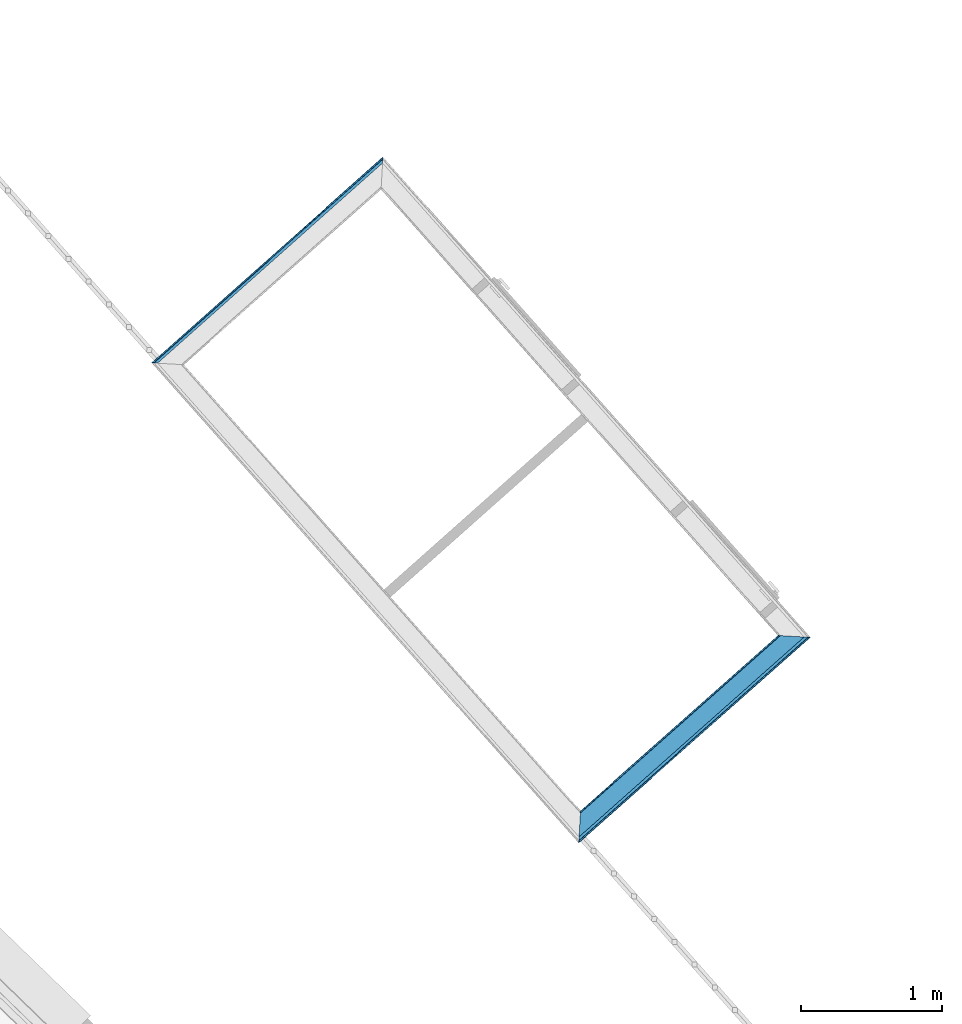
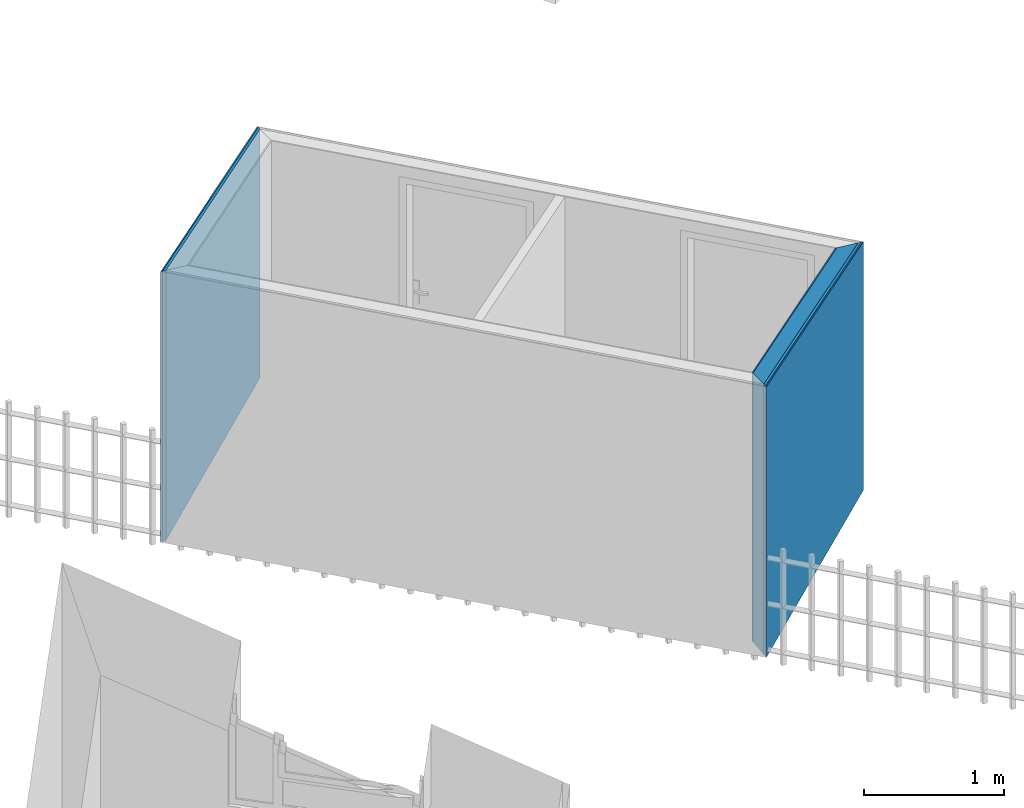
# One storey, part 122 of 195: 6 building element parts, 2 elements without a shape of their own.
"""IFC2X3 building model written with IfcOpenShell, lengths in metres."""

from ifc_helpers import new_model, entity, si_unit, converted_unit, derived_unit, money_unit, direction, frame, origin_with_axes, place, context, subcontext, project, spatial, polyline, outline, extrude, boolean, faceted_brep, material, type_object, element, aggregate, save


model = new_model("IFC2X3")

# Units and contexts
model_context = context("Model", 3, precision=1e-05, world=origin_with_axes(), true_north=direction((0.0, 1.0)))
body_context = subcontext(model_context, "Body", "Model", "MODEL_VIEW")
ifc_project = project(units=[si_unit("LENGTHUNIT", "METRE"), si_unit("AREAUNIT", "SQUARE_METRE"), si_unit("VOLUMEUNIT", "CUBIC_METRE"), converted_unit("PLANEANGLEUNIT", "DEGREE", entity("IfcPlaneAngleMeasure", 0.0174532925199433), si_unit("PLANEANGLEUNIT", "RADIAN"), dimensions=[0, 0, 0, 0, 0, 0, 0]), money_unit("CHF"), converted_unit("TIMEUNIT", "Year", entity("IfcTimeMeasure", 31557600.0), si_unit("TIMEUNIT", "SECOND"), dimensions=[0, 0, 1, 0, 0, 0, 0]), si_unit("MASSUNIT", "GRAM", prefix="KILO"), si_unit("THERMODYNAMICTEMPERATUREUNIT", "DEGREE_CELSIUS"), si_unit("LUMINOUSINTENSITYUNIT", "LUMEN"), si_unit("ENERGYUNIT", "JOULE", prefix="MEGA"), derived_unit("THERMALCONDUCTANCEUNIT", [(si_unit("POWERUNIT", "WATT"), 1), (si_unit("LENGTHUNIT", "METRE"), -1), (si_unit("THERMODYNAMICTEMPERATUREUNIT", "KELVIN"), -1)]), derived_unit("SPECIFICHEATCAPACITYUNIT", [(si_unit("ENERGYUNIT", "JOULE"), 1), (si_unit("MASSUNIT", "GRAM", prefix="KILO"), -1), (si_unit("THERMODYNAMICTEMPERATUREUNIT", "KELVIN"), -1)]), derived_unit("MASSDENSITYUNIT", [(si_unit("MASSUNIT", "GRAM", prefix="KILO"), 1), (si_unit("VOLUMEUNIT", "CUBIC_METRE"), -1)])], contexts=[model_context])

# Site, building, storey
site_placement = place(None, origin_with_axes())
site = spatial("IfcSite", under=ifc_project, at=site_placement, Name="Site", CompositionType="ELEMENT")
building_placement = place(site_placement, origin_with_axes())
building = spatial("IfcBuilding", under=site, at=building_placement, Name="Bâtiment", CompositionType="ELEMENT")
storey_placement = place(building_placement, origin_with_axes())
storey = spatial("IfcBuildingStorey", under=building, at=storey_placement, Name="rdc", CompositionType="ELEMENT", Elevation=0.0)

# Wall, building element parts
wall_type = type_object("IfcWallType", Name="1/Ossatur bois 160   non isol 160", PredefinedType="NOTDEFINED")
wall_1_placement = place(storey_placement, frame((9534.394085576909, -1058.80375944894, 57.7), z_axis=(0.0, 0.0, 1.0), x_axis=(0.7471567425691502, 0.6646478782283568, 0.0)))
wall_1 = element("IfcWall", 1, at=wall_1_placement, inside=storey, type_object=wall_type, Name="Mur-109")
ifc_material_1 = material(Name="Lame d'air 323202302")
building_element_part_1_placement = place(wall_1_placement, origin_with_axes())
building_element_part_1 = element("IfcBuildingElementPart", 2, at=building_element_part_1_placement, material=ifc_material_1, Name="Lame d'air 323202302", context=body_context, shape_type="CSG", body=[
    boolean("DIFFERENCE", boolean("DIFFERENCE", boolean("DIFFERENCE", boolean("DIFFERENCE", extrude(outline(polyline([(0.0, -0.02999999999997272), (2.19310865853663, -0.02999999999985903), (2.19310865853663, -0.009999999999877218), (0.0, -0.009999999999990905), (0.0, -0.02999999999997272)])), origin_with_axes(), (0.0, 0.0, 1.0), 2.75), faceted_brep([(0.1499999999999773, -0.1500000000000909, 2.343319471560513), (0.1499999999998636, -0.1499999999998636, 0.0), (0.0, -0.1499999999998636, 0.0), (0.0, -0.1499999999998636, 2.75), (2.193108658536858, -0.1499999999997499, 2.75), (2.193108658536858, -0.1499999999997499, 0.0), (2.043108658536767, -0.1499999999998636, 0.0), (2.043108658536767, -0.1499999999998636, 2.177693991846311), (0.1599999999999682, -0.1600000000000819, 2.342443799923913), (0.1599999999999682, -0.1600000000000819, 0.0), (0.0, -0.1599999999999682, 0.0), (0.0, -0.1599999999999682, 2.75), (2.193108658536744, -0.1599999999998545, 2.75), (2.193108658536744, -0.1599999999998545, 0.0), (2.033108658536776, -0.1599999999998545, 0.0), (2.033108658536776, -0.1599999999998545, 2.178568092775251)], [[[0, 1, 2, 3, 4, 5, 6, 7]], [[8, 9, 1, 0]], [[1, 9, 10, 2]], [[3, 2, 10, 11]], [[3, 11, 12, 4]], [[12, 13, 5, 4]], [[14, 6, 5, 13]], [[7, 6, 14, 15]], [[0, 7, 15, 8]], [[15, 14, 13, 12, 11, 10, 9, 8]]])), faceted_brep([(0.02999999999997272, -0.02999999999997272, 2.353827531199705), (0.02999999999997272, -0.02999999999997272, 0.0), (0.0, -0.02999999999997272, 0.0), (0.0, -0.02999999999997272, 2.75), (2.19310865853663, -0.02999999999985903, 2.75), (2.19310865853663, -0.02999999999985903, 0.0), (2.163108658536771, -0.02999999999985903, 0.0), (2.163108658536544, -0.02999999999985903, 2.167204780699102), (0.1499999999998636, -0.1499999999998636, 2.343319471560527), (0.1499999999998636, -0.1499999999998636, 0.0), (0.0, -0.1499999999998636, 0.0), (0.0, -0.1499999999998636, 2.75), (2.193108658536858, -0.1499999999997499, 2.75), (2.193108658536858, -0.1499999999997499, 0.0), (2.043108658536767, -0.1499999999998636, 0.0), (2.043108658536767, -0.1499999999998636, 2.177693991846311)], [[[0, 1, 2, 3, 4, 5, 6, 7]], [[8, 9, 1, 0]], [[1, 9, 10, 2]], [[3, 2, 10, 11]], [[3, 11, 12, 4]], [[12, 13, 5, 4]], [[14, 6, 5, 13]], [[7, 6, 14, 15]], [[0, 7, 15, 8]], [[15, 14, 13, 12, 11, 10, 9, 8]]])), faceted_brep([(0.009999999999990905, -0.009999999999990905, 2.355578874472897), (0.009999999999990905, -0.009999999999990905, 0.0), (0.0, -0.009999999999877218, 0.0), (0.0, -0.009999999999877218, 2.75), (2.19310865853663, -0.009999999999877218, 2.75), (2.19310865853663, -0.009999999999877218, 0.0), (2.183108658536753, -0.009999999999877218, 0.0), (2.183108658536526, -0.009999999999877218, 2.16545657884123), (0.02999999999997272, -0.02999999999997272, 2.353827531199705), (0.02999999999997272, -0.02999999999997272, 0.0), (0.0, -0.02999999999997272, 0.0), (0.0, -0.02999999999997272, 2.75), (2.19310865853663, -0.02999999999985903, 2.75), (2.19310865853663, -0.02999999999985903, 0.0), (2.163108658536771, -0.02999999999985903, 0.0), (2.163108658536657, -0.02999999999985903, 2.167204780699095)], [[[0, 1, 2, 3, 4, 5, 6, 7]], [[8, 9, 1, 0]], [[1, 9, 10, 2]], [[3, 2, 10, 11]], [[3, 11, 12, 4]], [[12, 13, 5, 4]], [[14, 6, 5, 13]], [[7, 6, 14, 15]], [[0, 7, 15, 8]], [[15, 14, 13, 12, 11, 10, 9, 8]]])), faceted_brep([(2.19310865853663, 0.0, 0.0), (2.19310865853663, 0.0, 2.164582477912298), (2.19310865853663, 0.0, 2.75), (2.19310865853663, -0.009999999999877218, 2.75), (2.19310865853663, -0.009999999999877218, 0.0), (2.183108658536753, -0.009999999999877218, 0.0), (2.183108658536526, -0.009999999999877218, 2.16545657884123), (0.0, 0.0, 2.356454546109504), (0.0, 0.0, 2.75), (0.0, -0.009999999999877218, 2.75), (0.0, -0.009999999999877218, 0.0), (0.009999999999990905, -0.009999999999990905, 0.0), (0.009999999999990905, -0.009999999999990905, 2.355578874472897), (0.0, 0.0, 0.0)], [[[0, 1, 2, 3, 4]], [[1, 0, 5, 6]], [[1, 7, 8, 2]], [[8, 9, 3, 2]], [[6, 5, 4, 3, 9, 10, 11, 12]], [[5, 0, 4]], [[7, 1, 6, 12]], [[7, 13, 10, 9, 8]], [[13, 11, 10]], [[12, 11, 13, 7]]])),
])
ifc_material_2 = material(Name="Hachure solide 323202122")
building_element_part_2_placement = place(wall_1_placement, origin_with_axes())
building_element_part_2 = element("IfcBuildingElementPart", 3, at=building_element_part_2_placement, material=ifc_material_2, Name="Hachure solide 323202122", context=body_context, shape_type="CSG", body=[
    boolean("DIFFERENCE", boolean("DIFFERENCE", boolean("DIFFERENCE", boolean("DIFFERENCE", extrude(outline(polyline([(0.0, -0.009999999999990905), (2.19310865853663, -0.009999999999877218), (2.19310865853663, 0.0), (0.0, 0.0), (0.0, -0.009999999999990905)])), origin_with_axes(), (0.0, 0.0, 1.0), 2.75), faceted_brep([(0.1499999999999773, -0.1500000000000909, 2.343319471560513), (0.1499999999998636, -0.1499999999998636, 0.0), (0.0, -0.1499999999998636, 0.0), (0.0, -0.1499999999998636, 2.75), (2.193108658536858, -0.1499999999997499, 2.75), (2.193108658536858, -0.1499999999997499, 0.0), (2.043108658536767, -0.1499999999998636, 0.0), (2.043108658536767, -0.1499999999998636, 2.177693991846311), (0.1599999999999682, -0.1600000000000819, 2.342443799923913), (0.1599999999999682, -0.1600000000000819, 0.0), (0.0, -0.1599999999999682, 0.0), (0.0, -0.1599999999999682, 2.75), (2.193108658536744, -0.1599999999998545, 2.75), (2.193108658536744, -0.1599999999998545, 0.0), (2.033108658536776, -0.1599999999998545, 0.0), (2.033108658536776, -0.1599999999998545, 2.178568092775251)], [[[0, 1, 2, 3, 4, 5, 6, 7]], [[8, 9, 1, 0]], [[1, 9, 10, 2]], [[3, 2, 10, 11]], [[3, 11, 12, 4]], [[12, 13, 5, 4]], [[14, 6, 5, 13]], [[7, 6, 14, 15]], [[0, 7, 15, 8]], [[15, 14, 13, 12, 11, 10, 9, 8]]])), faceted_brep([(0.02999999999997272, -0.02999999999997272, 2.353827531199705), (0.02999999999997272, -0.02999999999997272, 0.0), (0.0, -0.02999999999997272, 0.0), (0.0, -0.02999999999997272, 2.75), (2.19310865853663, -0.02999999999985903, 2.75), (2.19310865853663, -0.02999999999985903, 0.0), (2.163108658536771, -0.02999999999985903, 0.0), (2.163108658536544, -0.02999999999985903, 2.167204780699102), (0.1499999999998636, -0.1499999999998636, 2.343319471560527), (0.1499999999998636, -0.1499999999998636, 0.0), (0.0, -0.1499999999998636, 0.0), (0.0, -0.1499999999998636, 2.75), (2.193108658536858, -0.1499999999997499, 2.75), (2.193108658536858, -0.1499999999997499, 0.0), (2.043108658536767, -0.1499999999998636, 0.0), (2.043108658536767, -0.1499999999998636, 2.177693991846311)], [[[0, 1, 2, 3, 4, 5, 6, 7]], [[8, 9, 1, 0]], [[1, 9, 10, 2]], [[3, 2, 10, 11]], [[3, 11, 12, 4]], [[12, 13, 5, 4]], [[14, 6, 5, 13]], [[7, 6, 14, 15]], [[0, 7, 15, 8]], [[15, 14, 13, 12, 11, 10, 9, 8]]])), faceted_brep([(0.009999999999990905, -0.009999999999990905, 2.355578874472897), (0.009999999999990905, -0.009999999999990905, 0.0), (0.0, -0.009999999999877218, 0.0), (0.0, -0.009999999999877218, 2.75), (2.19310865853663, -0.009999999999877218, 2.75), (2.19310865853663, -0.009999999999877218, 0.0), (2.183108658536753, -0.009999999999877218, 0.0), (2.183108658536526, -0.009999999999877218, 2.16545657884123), (0.02999999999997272, -0.02999999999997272, 2.353827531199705), (0.02999999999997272, -0.02999999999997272, 0.0), (0.0, -0.02999999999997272, 0.0), (0.0, -0.02999999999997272, 2.75), (2.19310865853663, -0.02999999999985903, 2.75), (2.19310865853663, -0.02999999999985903, 0.0), (2.163108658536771, -0.02999999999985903, 0.0), (2.163108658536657, -0.02999999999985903, 2.167204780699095)], [[[0, 1, 2, 3, 4, 5, 6, 7]], [[8, 9, 1, 0]], [[1, 9, 10, 2]], [[3, 2, 10, 11]], [[3, 11, 12, 4]], [[12, 13, 5, 4]], [[14, 6, 5, 13]], [[7, 6, 14, 15]], [[0, 7, 15, 8]], [[15, 14, 13, 12, 11, 10, 9, 8]]])), faceted_brep([(2.19310865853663, 0.0, 0.0), (2.19310865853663, 0.0, 2.164582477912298), (2.19310865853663, 0.0, 2.75), (2.19310865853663, -0.009999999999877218, 2.75), (2.19310865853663, -0.009999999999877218, 0.0), (2.183108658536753, -0.009999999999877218, 0.0), (2.183108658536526, -0.009999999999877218, 2.16545657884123), (0.0, 0.0, 2.356454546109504), (0.0, 0.0, 2.75), (0.0, -0.009999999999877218, 2.75), (0.0, -0.009999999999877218, 0.0), (0.009999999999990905, -0.009999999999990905, 0.0), (0.009999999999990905, -0.009999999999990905, 2.355578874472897), (0.0, 0.0, 0.0)], [[[0, 1, 2, 3, 4]], [[1, 0, 5, 6]], [[1, 7, 8, 2]], [[8, 9, 3, 2]], [[6, 5, 4, 3, 9, 10, 11, 12]], [[5, 0, 4]], [[7, 1, 6, 12]], [[7, 13, 10, 9, 8]], [[13, 11, 10]], [[12, 11, 13, 7]]])),
])
aggregate(wall_1, [building_element_part_1, building_element_part_2])

wall_2_placement = place(storey_placement, frame((9539.059533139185, -1060.748717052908, 57.7), z_axis=(0.0, 0.0, 1.0), x_axis=(-0.7477530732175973, -0.6639769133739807, 0.0)))
wall_2 = element("IfcWall", 4, at=wall_2_placement, inside=storey, type_object=wall_type, Name="Mur-111")
ifc_material_3 = material(Name="Lame d'air 275581439")
building_element_part_3_placement = place(wall_2_placement, origin_with_axes())
building_element_part_3 = element("IfcBuildingElementPart", 5, at=building_element_part_3_placement, material=ifc_material_3, Name="Lame d'air 275581439", context=body_context, shape_type="CSG", body=[
    boolean("DIFFERENCE", boolean("DIFFERENCE", boolean("DIFFERENCE", boolean("DIFFERENCE", extrude(outline(polyline([(0.0, -0.1500000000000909), (2.193253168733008, -0.1500000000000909), (2.193253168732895, -0.0300000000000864), (0.0, -0.0300000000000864), (0.0, -0.1500000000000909)])), origin_with_axes(), (0.0, 0.0, 1.0), 2.75), faceted_brep([(2.043244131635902, -0.1500000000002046, 0.0), (2.043244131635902, -0.1500000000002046, 2.342985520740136), (0.1501347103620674, -0.1500000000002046, 2.177359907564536), (0.1501347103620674, -0.1500000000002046, 0.0), (0.0, -0.1500000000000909, 0.0), (0.0, -0.1500000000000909, 2.75), (2.193253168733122, -0.1500000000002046, 2.75), (2.193253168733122, -0.1500000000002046, 0.0), (2.033253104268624, -0.1600000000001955, 0.0), (2.033253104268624, -0.1600000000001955, 2.34211141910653), (0.1601436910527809, -0.1599999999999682, 2.178235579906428), (0.1601436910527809, -0.1599999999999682, 0.0), (0.0, -0.1600000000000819, 0.0), (0.0, -0.1600000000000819, 2.75), (2.193253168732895, -0.1600000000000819, 2.75), (2.193253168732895, -0.1600000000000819, 0.0)], [[[0, 1, 2, 3, 4, 5, 6, 7]], [[8, 9, 1, 0]], [[2, 1, 9, 10]], [[3, 2, 10, 11]], [[3, 11, 12, 4]], [[5, 4, 12, 13]], [[5, 13, 14, 6]], [[14, 15, 7, 6]], [[8, 0, 7, 15]], [[9, 8, 15, 14, 13, 12, 11, 10]]])), faceted_brep([(2.163136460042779, -0.03000000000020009, 0.0), (2.163136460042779, -0.03000000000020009, 2.353474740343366), (0.03002694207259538, -0.03000000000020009, 2.166851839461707), (0.03002694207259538, -0.03000000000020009, 0.0), (0.0, -0.0300000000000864, 0.0), (0.0, -0.0300000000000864, 2.75), (2.193253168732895, -0.03000000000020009, 2.75), (2.193253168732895, -0.03000000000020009, 0.0), (2.043244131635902, -0.1500000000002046, 0.0), (2.043244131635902, -0.1500000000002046, 2.342985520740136), (0.1501347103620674, -0.1500000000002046, 2.177359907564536), (0.1501347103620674, -0.1500000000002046, 0.0), (0.0, -0.1500000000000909, 0.0), (0.0, -0.1500000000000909, 2.75), (2.193253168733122, -0.1500000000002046, 2.75), (2.193253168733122, -0.1500000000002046, 0.0)], [[[0, 1, 2, 3, 4, 5, 6, 7]], [[8, 9, 1, 0]], [[2, 1, 9, 10]], [[3, 2, 10, 11]], [[3, 11, 12, 4]], [[5, 4, 12, 13]], [[5, 13, 14, 6]], [[14, 15, 7, 6]], [[8, 0, 7, 15]], [[9, 8, 15, 14, 13, 12, 11, 10]]])), faceted_brep([(2.183118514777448, -0.009999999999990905, 0.0), (2.183118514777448, -0.009999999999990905, 2.355222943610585), (0.01000898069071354, -0.009999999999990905, 2.165100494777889), (0.01000898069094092, -0.01000000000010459, 0.0), (0.0, -0.01000000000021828, 0.0), (0.0, -0.01000000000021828, 2.75), (2.193253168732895, -0.009999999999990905, 2.75), (2.193253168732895, -0.009999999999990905, 0.0), (2.163136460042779, -0.03000000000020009, 0.0), (2.163136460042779, -0.03000000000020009, 2.353474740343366), (0.03002694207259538, -0.03000000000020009, 2.166851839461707), (0.03002694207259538, -0.03000000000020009, 0.0), (0.0, -0.0300000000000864, 0.0), (0.0, -0.0300000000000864, 2.75), (2.193253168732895, -0.03000000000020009, 2.75), (2.193253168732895, -0.03000000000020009, 0.0)], [[[0, 1, 2, 3, 4, 5, 6, 7]], [[8, 9, 1, 0]], [[2, 1, 9, 10]], [[3, 2, 10, 11]], [[3, 11, 12, 4]], [[5, 4, 12, 13]], [[5, 13, 14, 6]], [[14, 15, 7, 6]], [[8, 0, 7, 15]], [[9, 8, 15, 14, 13, 12, 11, 10]]])), faceted_brep([(2.193109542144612, 0.0, 0.0), (2.193109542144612, 0.0, 2.356097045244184), (0.0, 0.0, 2.164224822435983), (0.0, 0.0, 2.75), (2.193253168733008, 0.0, 2.75), (2.193253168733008, 0.0, 0.0), (2.183118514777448, -0.009999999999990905, 0.0), (2.183118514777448, -0.009999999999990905, 2.355222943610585), (0.01000898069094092, -0.01000000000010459, 2.165100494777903), (0.0, 0.0, 0.0), (0.0, -0.01000000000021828, 0.0), (0.0, -0.01000000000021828, 2.75), (2.193253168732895, -0.009999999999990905, 2.75), (2.193253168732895, -0.009999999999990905, 0.0), (0.01000898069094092, -0.01000000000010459, 0.0)], [[[0, 1, 2, 3, 4, 5]], [[6, 7, 1, 0]], [[2, 1, 7, 8]], [[2, 9, 10, 11, 3]], [[3, 11, 12, 4]], [[12, 13, 5, 4]], [[6, 0, 5, 13]], [[7, 6, 13, 12, 11, 10, 14, 8]], [[9, 2, 8, 14]], [[9, 14, 10]]])),
])
building_element_part_4_placement = place(wall_2_placement, origin_with_axes())
building_element_part_4 = element("IfcBuildingElementPart", 6, at=building_element_part_4_placement, material=ifc_material_2, Name="Hachure solide 323202122", context=body_context, shape_type="CSG", body=[
    boolean("DIFFERENCE", boolean("DIFFERENCE", boolean("DIFFERENCE", boolean("DIFFERENCE", extrude(outline(polyline([(0.0, -0.01000000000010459), (2.193253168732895, -0.009999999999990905), (2.193253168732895, 0.0), (0.0, 0.0), (0.0, -0.01000000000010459)])), origin_with_axes(), (0.0, 0.0, 1.0), 2.75), faceted_brep([(2.043244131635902, -0.1500000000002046, 0.0), (2.043244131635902, -0.1500000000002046, 2.342985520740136), (0.1501347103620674, -0.1500000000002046, 2.177359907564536), (0.1501347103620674, -0.1500000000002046, 0.0), (0.0, -0.1500000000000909, 0.0), (0.0, -0.1500000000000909, 2.75), (2.193253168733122, -0.1500000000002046, 2.75), (2.193253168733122, -0.1500000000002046, 0.0), (2.033253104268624, -0.1600000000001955, 0.0), (2.033253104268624, -0.1600000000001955, 2.34211141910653), (0.1601436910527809, -0.1599999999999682, 2.178235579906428), (0.1601436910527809, -0.1599999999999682, 0.0), (0.0, -0.1600000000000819, 0.0), (0.0, -0.1600000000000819, 2.75), (2.193253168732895, -0.1600000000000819, 2.75), (2.193253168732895, -0.1600000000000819, 0.0)], [[[0, 1, 2, 3, 4, 5, 6, 7]], [[8, 9, 1, 0]], [[2, 1, 9, 10]], [[3, 2, 10, 11]], [[3, 11, 12, 4]], [[5, 4, 12, 13]], [[5, 13, 14, 6]], [[14, 15, 7, 6]], [[8, 0, 7, 15]], [[9, 8, 15, 14, 13, 12, 11, 10]]])), faceted_brep([(2.163136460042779, -0.03000000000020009, 0.0), (2.163136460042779, -0.03000000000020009, 2.353474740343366), (0.03002694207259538, -0.03000000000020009, 2.166851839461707), (0.03002694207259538, -0.03000000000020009, 0.0), (0.0, -0.0300000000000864, 0.0), (0.0, -0.0300000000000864, 2.75), (2.193253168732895, -0.03000000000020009, 2.75), (2.193253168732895, -0.03000000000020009, 0.0), (2.043244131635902, -0.1500000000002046, 0.0), (2.043244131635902, -0.1500000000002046, 2.342985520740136), (0.1501347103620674, -0.1500000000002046, 2.177359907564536), (0.1501347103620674, -0.1500000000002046, 0.0), (0.0, -0.1500000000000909, 0.0), (0.0, -0.1500000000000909, 2.75), (2.193253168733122, -0.1500000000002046, 2.75), (2.193253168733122, -0.1500000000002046, 0.0)], [[[0, 1, 2, 3, 4, 5, 6, 7]], [[8, 9, 1, 0]], [[2, 1, 9, 10]], [[3, 2, 10, 11]], [[3, 11, 12, 4]], [[5, 4, 12, 13]], [[5, 13, 14, 6]], [[14, 15, 7, 6]], [[8, 0, 7, 15]], [[9, 8, 15, 14, 13, 12, 11, 10]]])), faceted_brep([(2.183118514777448, -0.009999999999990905, 0.0), (2.183118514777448, -0.009999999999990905, 2.355222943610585), (0.01000898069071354, -0.009999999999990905, 2.165100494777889), (0.01000898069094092, -0.01000000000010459, 0.0), (0.0, -0.01000000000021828, 0.0), (0.0, -0.01000000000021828, 2.75), (2.193253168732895, -0.009999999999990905, 2.75), (2.193253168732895, -0.009999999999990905, 0.0), (2.163136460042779, -0.03000000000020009, 0.0), (2.163136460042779, -0.03000000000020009, 2.353474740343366), (0.03002694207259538, -0.03000000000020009, 2.166851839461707), (0.03002694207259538, -0.03000000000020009, 0.0), (0.0, -0.0300000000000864, 0.0), (0.0, -0.0300000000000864, 2.75), (2.193253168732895, -0.03000000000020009, 2.75), (2.193253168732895, -0.03000000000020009, 0.0)], [[[0, 1, 2, 3, 4, 5, 6, 7]], [[8, 9, 1, 0]], [[2, 1, 9, 10]], [[3, 2, 10, 11]], [[3, 11, 12, 4]], [[5, 4, 12, 13]], [[5, 13, 14, 6]], [[14, 15, 7, 6]], [[8, 0, 7, 15]], [[9, 8, 15, 14, 13, 12, 11, 10]]])), faceted_brep([(2.193109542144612, 0.0, 0.0), (2.193109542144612, 0.0, 2.356097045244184), (0.0, 0.0, 2.164224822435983), (0.0, 0.0, 2.75), (2.193253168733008, 0.0, 2.75), (2.193253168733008, 0.0, 0.0), (2.183118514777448, -0.009999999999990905, 0.0), (2.183118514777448, -0.009999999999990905, 2.355222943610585), (0.01000898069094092, -0.01000000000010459, 2.165100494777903), (0.0, 0.0, 0.0), (0.0, -0.01000000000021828, 0.0), (0.0, -0.01000000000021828, 2.75), (2.193253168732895, -0.009999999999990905, 2.75), (2.193253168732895, -0.009999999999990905, 0.0), (0.01000898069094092, -0.01000000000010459, 0.0)], [[[0, 1, 2, 3, 4, 5]], [[6, 7, 1, 0]], [[2, 1, 7, 8]], [[2, 9, 10, 11, 3]], [[3, 11, 12, 4]], [[12, 13, 5, 4]], [[6, 0, 5, 13]], [[7, 6, 13, 12, 11, 10, 14, 8]], [[9, 2, 8, 14]], [[9, 14, 10]]])),
])
ifc_material_4 = material(Name="Sans Trame 296962763")
building_element_part_5_placement = place(wall_2_placement, origin_with_axes())
building_element_part_5 = element("IfcBuildingElementPart", 7, at=building_element_part_5_placement, material=ifc_material_4, Name="Sans Trame 296962763", context=body_context, shape_type="CSG", body=[
    boolean("DIFFERENCE", boolean("DIFFERENCE", boolean("DIFFERENCE", boolean("DIFFERENCE", extrude(outline(polyline([(0.0, -0.1600000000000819), (2.193253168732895, -0.1600000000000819), (2.193253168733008, -0.1500000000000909), (0.0, -0.1500000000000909), (0.0, -0.1600000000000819)])), origin_with_axes(), (0.0, 0.0, 1.0), 2.75), faceted_brep([(2.043244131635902, -0.1500000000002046, 0.0), (2.043244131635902, -0.1500000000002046, 2.342985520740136), (0.1501347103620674, -0.1500000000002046, 2.177359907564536), (0.1501347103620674, -0.1500000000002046, 0.0), (0.0, -0.1500000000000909, 0.0), (0.0, -0.1500000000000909, 2.75), (2.193253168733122, -0.1500000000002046, 2.75), (2.193253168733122, -0.1500000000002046, 0.0), (2.033253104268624, -0.1600000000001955, 0.0), (2.033253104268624, -0.1600000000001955, 2.34211141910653), (0.1601436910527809, -0.1599999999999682, 2.178235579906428), (0.1601436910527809, -0.1599999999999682, 0.0), (0.0, -0.1600000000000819, 0.0), (0.0, -0.1600000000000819, 2.75), (2.193253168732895, -0.1600000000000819, 2.75), (2.193253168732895, -0.1600000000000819, 0.0)], [[[0, 1, 2, 3, 4, 5, 6, 7]], [[8, 9, 1, 0]], [[2, 1, 9, 10]], [[3, 2, 10, 11]], [[3, 11, 12, 4]], [[5, 4, 12, 13]], [[5, 13, 14, 6]], [[14, 15, 7, 6]], [[8, 0, 7, 15]], [[9, 8, 15, 14, 13, 12, 11, 10]]])), faceted_brep([(2.163136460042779, -0.03000000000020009, 0.0), (2.163136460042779, -0.03000000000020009, 2.353474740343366), (0.03002694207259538, -0.03000000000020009, 2.166851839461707), (0.03002694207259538, -0.03000000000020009, 0.0), (0.0, -0.0300000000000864, 0.0), (0.0, -0.0300000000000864, 2.75), (2.193253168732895, -0.03000000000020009, 2.75), (2.193253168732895, -0.03000000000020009, 0.0), (2.043244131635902, -0.1500000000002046, 0.0), (2.043244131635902, -0.1500000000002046, 2.342985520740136), (0.1501347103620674, -0.1500000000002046, 2.177359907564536), (0.1501347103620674, -0.1500000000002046, 0.0), (0.0, -0.1500000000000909, 0.0), (0.0, -0.1500000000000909, 2.75), (2.193253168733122, -0.1500000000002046, 2.75), (2.193253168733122, -0.1500000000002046, 0.0)], [[[0, 1, 2, 3, 4, 5, 6, 7]], [[8, 9, 1, 0]], [[2, 1, 9, 10]], [[3, 2, 10, 11]], [[3, 11, 12, 4]], [[5, 4, 12, 13]], [[5, 13, 14, 6]], [[14, 15, 7, 6]], [[8, 0, 7, 15]], [[9, 8, 15, 14, 13, 12, 11, 10]]])), faceted_brep([(2.183118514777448, -0.009999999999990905, 0.0), (2.183118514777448, -0.009999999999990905, 2.355222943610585), (0.01000898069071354, -0.009999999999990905, 2.165100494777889), (0.01000898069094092, -0.01000000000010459, 0.0), (0.0, -0.01000000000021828, 0.0), (0.0, -0.01000000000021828, 2.75), (2.193253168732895, -0.009999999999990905, 2.75), (2.193253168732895, -0.009999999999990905, 0.0), (2.163136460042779, -0.03000000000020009, 0.0), (2.163136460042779, -0.03000000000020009, 2.353474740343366), (0.03002694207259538, -0.03000000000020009, 2.166851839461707), (0.03002694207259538, -0.03000000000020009, 0.0), (0.0, -0.0300000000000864, 0.0), (0.0, -0.0300000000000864, 2.75), (2.193253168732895, -0.03000000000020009, 2.75), (2.193253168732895, -0.03000000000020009, 0.0)], [[[0, 1, 2, 3, 4, 5, 6, 7]], [[8, 9, 1, 0]], [[2, 1, 9, 10]], [[3, 2, 10, 11]], [[3, 11, 12, 4]], [[5, 4, 12, 13]], [[5, 13, 14, 6]], [[14, 15, 7, 6]], [[8, 0, 7, 15]], [[9, 8, 15, 14, 13, 12, 11, 10]]])), faceted_brep([(2.193109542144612, 0.0, 0.0), (2.193109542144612, 0.0, 2.356097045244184), (0.0, 0.0, 2.164224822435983), (0.0, 0.0, 2.75), (2.193253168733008, 0.0, 2.75), (2.193253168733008, 0.0, 0.0), (2.183118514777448, -0.009999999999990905, 0.0), (2.183118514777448, -0.009999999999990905, 2.355222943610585), (0.01000898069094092, -0.01000000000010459, 2.165100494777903), (0.0, 0.0, 0.0), (0.0, -0.01000000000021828, 0.0), (0.0, -0.01000000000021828, 2.75), (2.193253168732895, -0.009999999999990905, 2.75), (2.193253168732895, -0.009999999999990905, 0.0), (0.01000898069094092, -0.01000000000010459, 0.0)], [[[0, 1, 2, 3, 4, 5]], [[6, 7, 1, 0]], [[2, 1, 7, 8]], [[2, 9, 10, 11, 3]], [[3, 11, 12, 4]], [[12, 13, 5, 4]], [[6, 0, 5, 13]], [[7, 6, 13, 12, 11, 10, 14, 8]], [[9, 2, 8, 14]], [[9, 14, 10]]])),
])
building_element_part_6_placement = place(wall_2_placement, origin_with_axes())
building_element_part_6 = element("IfcBuildingElementPart", 8, at=building_element_part_6_placement, material=ifc_material_1, Name="Lame d'air 323202302", context=body_context, shape_type="CSG", body=[
    boolean("DIFFERENCE", boolean("DIFFERENCE", boolean("DIFFERENCE", boolean("DIFFERENCE", extrude(outline(polyline([(0.0, -0.0300000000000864), (2.193253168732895, -0.0300000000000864), (2.193253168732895, -0.009999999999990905), (0.0, -0.01000000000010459), (0.0, -0.0300000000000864)])), origin_with_axes(), (0.0, 0.0, 1.0), 2.75), faceted_brep([(2.043244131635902, -0.1500000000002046, 0.0), (2.043244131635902, -0.1500000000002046, 2.342985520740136), (0.1501347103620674, -0.1500000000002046, 2.177359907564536), (0.1501347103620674, -0.1500000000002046, 0.0), (0.0, -0.1500000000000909, 0.0), (0.0, -0.1500000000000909, 2.75), (2.193253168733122, -0.1500000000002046, 2.75), (2.193253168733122, -0.1500000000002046, 0.0), (2.033253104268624, -0.1600000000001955, 0.0), (2.033253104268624, -0.1600000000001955, 2.34211141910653), (0.1601436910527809, -0.1599999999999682, 2.178235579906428), (0.1601436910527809, -0.1599999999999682, 0.0), (0.0, -0.1600000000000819, 0.0), (0.0, -0.1600000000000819, 2.75), (2.193253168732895, -0.1600000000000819, 2.75), (2.193253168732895, -0.1600000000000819, 0.0)], [[[0, 1, 2, 3, 4, 5, 6, 7]], [[8, 9, 1, 0]], [[2, 1, 9, 10]], [[3, 2, 10, 11]], [[3, 11, 12, 4]], [[5, 4, 12, 13]], [[5, 13, 14, 6]], [[14, 15, 7, 6]], [[8, 0, 7, 15]], [[9, 8, 15, 14, 13, 12, 11, 10]]])), faceted_brep([(2.163136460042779, -0.03000000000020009, 0.0), (2.163136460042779, -0.03000000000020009, 2.353474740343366), (0.03002694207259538, -0.03000000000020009, 2.166851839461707), (0.03002694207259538, -0.03000000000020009, 0.0), (0.0, -0.0300000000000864, 0.0), (0.0, -0.0300000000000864, 2.75), (2.193253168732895, -0.03000000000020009, 2.75), (2.193253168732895, -0.03000000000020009, 0.0), (2.043244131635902, -0.1500000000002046, 0.0), (2.043244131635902, -0.1500000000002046, 2.342985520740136), (0.1501347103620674, -0.1500000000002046, 2.177359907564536), (0.1501347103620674, -0.1500000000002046, 0.0), (0.0, -0.1500000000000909, 0.0), (0.0, -0.1500000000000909, 2.75), (2.193253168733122, -0.1500000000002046, 2.75), (2.193253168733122, -0.1500000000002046, 0.0)], [[[0, 1, 2, 3, 4, 5, 6, 7]], [[8, 9, 1, 0]], [[2, 1, 9, 10]], [[3, 2, 10, 11]], [[3, 11, 12, 4]], [[5, 4, 12, 13]], [[5, 13, 14, 6]], [[14, 15, 7, 6]], [[8, 0, 7, 15]], [[9, 8, 15, 14, 13, 12, 11, 10]]])), faceted_brep([(2.183118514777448, -0.009999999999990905, 0.0), (2.183118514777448, -0.009999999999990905, 2.355222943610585), (0.01000898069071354, -0.009999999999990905, 2.165100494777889), (0.01000898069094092, -0.01000000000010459, 0.0), (0.0, -0.01000000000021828, 0.0), (0.0, -0.01000000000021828, 2.75), (2.193253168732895, -0.009999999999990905, 2.75), (2.193253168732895, -0.009999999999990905, 0.0), (2.163136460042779, -0.03000000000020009, 0.0), (2.163136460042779, -0.03000000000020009, 2.353474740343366), (0.03002694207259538, -0.03000000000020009, 2.166851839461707), (0.03002694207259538, -0.03000000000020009, 0.0), (0.0, -0.0300000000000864, 0.0), (0.0, -0.0300000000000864, 2.75), (2.193253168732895, -0.03000000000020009, 2.75), (2.193253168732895, -0.03000000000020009, 0.0)], [[[0, 1, 2, 3, 4, 5, 6, 7]], [[8, 9, 1, 0]], [[2, 1, 9, 10]], [[3, 2, 10, 11]], [[3, 11, 12, 4]], [[5, 4, 12, 13]], [[5, 13, 14, 6]], [[14, 15, 7, 6]], [[8, 0, 7, 15]], [[9, 8, 15, 14, 13, 12, 11, 10]]])), faceted_brep([(2.193109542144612, 0.0, 0.0), (2.193109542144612, 0.0, 2.356097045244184), (0.0, 0.0, 2.164224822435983), (0.0, 0.0, 2.75), (2.193253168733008, 0.0, 2.75), (2.193253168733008, 0.0, 0.0), (2.183118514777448, -0.009999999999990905, 0.0), (2.183118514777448, -0.009999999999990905, 2.355222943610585), (0.01000898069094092, -0.01000000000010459, 2.165100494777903), (0.0, 0.0, 0.0), (0.0, -0.01000000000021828, 0.0), (0.0, -0.01000000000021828, 2.75), (2.193253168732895, -0.009999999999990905, 2.75), (2.193253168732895, -0.009999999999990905, 0.0), (0.01000898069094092, -0.01000000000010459, 0.0)], [[[0, 1, 2, 3, 4, 5]], [[6, 7, 1, 0]], [[2, 1, 7, 8]], [[2, 9, 10, 11, 3]], [[3, 11, 12, 4]], [[12, 13, 5, 4]], [[6, 0, 5, 13]], [[7, 6, 13, 12, 11, 10, 14, 8]], [[9, 2, 8, 14]], [[9, 14, 10]]])),
])
aggregate(wall_2, [building_element_part_3, building_element_part_4, building_element_part_5, building_element_part_6])

save(model, "model.ifc")
